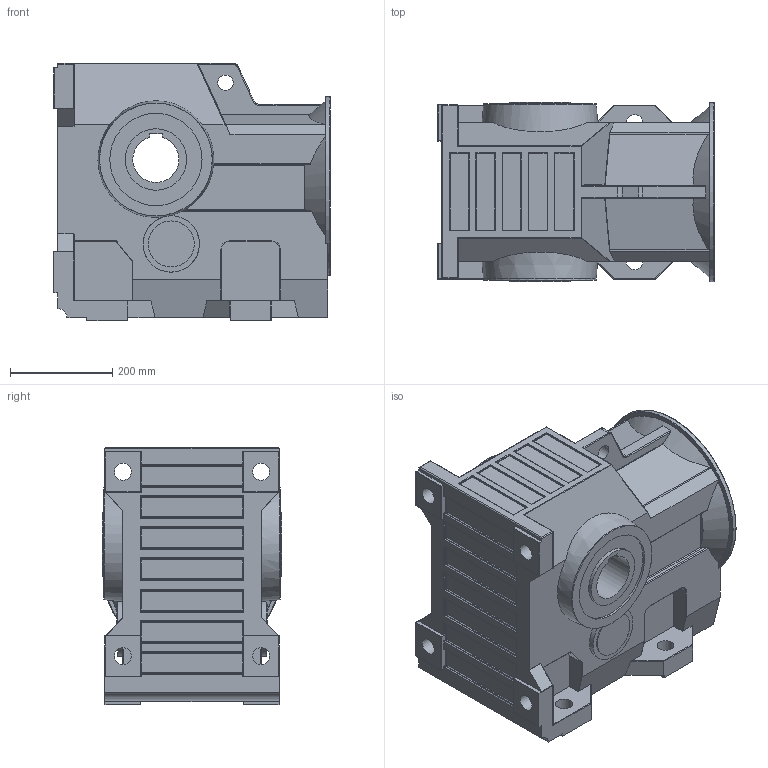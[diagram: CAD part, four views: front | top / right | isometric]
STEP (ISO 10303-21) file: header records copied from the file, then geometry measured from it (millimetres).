
FILE_DESCRIPTION((''),'2;1');
FILE_NAME('F:\PAWEŁ\ZLECENIA\2011 DualSystem\Przekładnie DK\001 Modele\DKAB100_\DK_100_STEP\DK_B_100.stp','2012-06-26T19:22:02',('admin'),(''),'Autodesk Inventor 2009','Autodesk Inventor 2009','');
FILE_SCHEMA(('AUTOMOTIVE_DESIGN { 1 0 10303 214 1 1 1 1 }'));
Length unit declared in the file: millimetre
Products named in the file (1): DK_B_100
Bounding box: 541 x 350 x 503 mm (x, y, z)
Volume: 62251711.8 mm3; surface area: 1409502 mm2
Topology: 1 solids, 1 shells, 554 faces, 1371 edges, 806 vertices
Faces by surface type: cylinder 237, plane 157, bspline 134, torus 12, sphere 10, cone 4
Full cylindrical faces by diameter (mm): 30 x1, 33 x4, 90 x1, 110 x1, 120 x1, 180.254 x1, 220.254 x2, 260 x1, 350 x1
Entity records: 20725 total; most frequent: CARTESIAN_POINT 8189, ORIENTED_EDGE 2612, DIRECTION 2568, EDGE_CURVE 1306, AXIS2_PLACEMENT_3D 942, VERTEX_POINT 796, VECTOR 684, LINE 684
